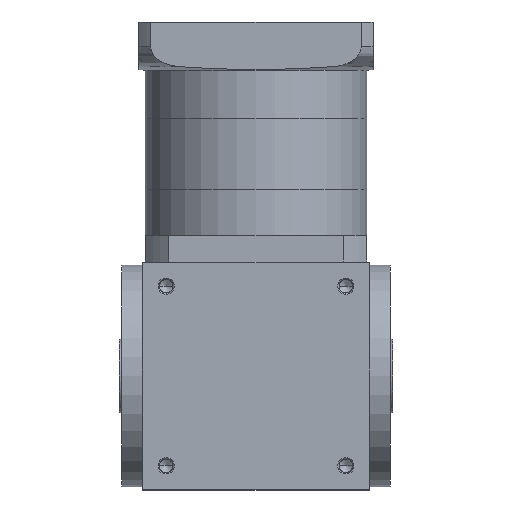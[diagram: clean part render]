
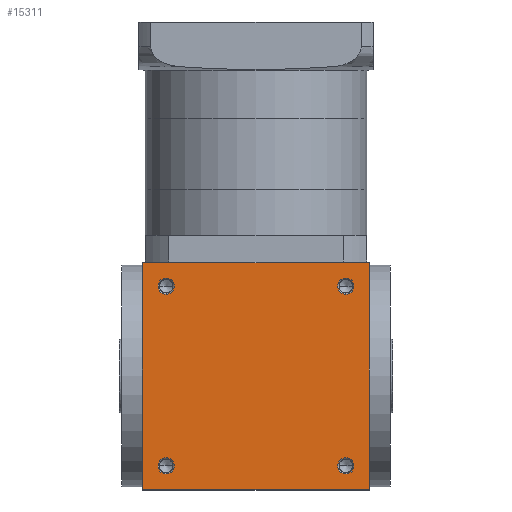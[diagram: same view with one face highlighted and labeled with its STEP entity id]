
A CAD part, front view. The second image highlights one B-rep face of the part: STEP entity #15311.
In plain terms, the highlighted planar face has unit normal (0, -1, 0).
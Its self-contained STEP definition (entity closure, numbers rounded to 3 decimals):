
#847 = DIRECTION ( 'NONE',  ( 0., -1., 0. ) ) ;
#880 = EDGE_CURVE ( 'NONE', #18208, #14510, #3067, .T. ) ;
#2165 = CARTESIAN_POINT ( 'NONE',  ( -67., -85., 152. ) ) ;
#3067 = CIRCLE ( 'NONE', #35133, 6.025 ) ;
#3091 = CARTESIAN_POINT ( 'NONE',  ( 67., -85., 18. ) ) ;
#3171 = DIRECTION ( 'NONE',  ( 0., 0., -1. ) ) ;
#3193 = DIRECTION ( 'NONE',  ( 0., -1., 0. ) ) ;
#3235 = ORIENTED_EDGE ( 'NONE', *, *, #26759, .F. ) ;
#3242 = CARTESIAN_POINT ( 'NONE',  ( 67., -85., 152. ) ) ;
#3458 = VERTEX_POINT ( 'NONE', #6726 ) ;
#3506 = ORIENTED_EDGE ( 'NONE', *, *, #5808, .F. ) ;
#3637 = LINE ( 'NONE', #40179, #4968 ) ;
#3758 = EDGE_CURVE ( 'NONE', #23532, #3458, #27032, .T. ) ;
#4968 = VECTOR ( 'NONE', #15306, 1000. ) ;
#5808 = EDGE_CURVE ( 'NONE', #13698, #49567, #13901, .T. ) ;
#5899 = CARTESIAN_POINT ( 'NONE',  ( -67., -85., 152. ) ) ;
#5962 = DIRECTION ( 'NONE',  ( 0., -1., 0. ) ) ;
#6029 = DIRECTION ( 'NONE',  ( 0., 0., -1. ) ) ;
#6430 = DIRECTION ( 'NONE',  ( 0., 0., -1. ) ) ;
#6726 = CARTESIAN_POINT ( 'NONE',  ( -67., -85., 11.975 ) ) ;
#7290 = VERTEX_POINT ( 'NONE', #35641 ) ;
#7311 = DIRECTION ( 'NONE',  ( 0., 0., -1. ) ) ;
#8284 = EDGE_CURVE ( 'NONE', #27612, #30658, #53440, .T. ) ;
#9605 = DIRECTION ( 'NONE',  ( 0., -1., 0. ) ) ;
#10006 = ORIENTED_EDGE ( 'NONE', *, *, #31190, .F. ) ;
#10548 = ORIENTED_EDGE ( 'NONE', *, *, #51335, .F. ) ;
#11248 = AXIS2_PLACEMENT_3D ( 'NONE', #27562, #27260, #26711 ) ;
#11908 = CARTESIAN_POINT ( 'NONE',  ( -67., -85., 158.025 ) ) ;
#12486 = VECTOR ( 'NONE', #26106, 1000. ) ;
#12692 = AXIS2_PLACEMENT_3D ( 'NONE', #2165, #31288, #6430 ) ;
#12769 = ORIENTED_EDGE ( 'NONE', *, *, #8284, .F. ) ;
#13097 = CARTESIAN_POINT ( 'NONE',  ( 67., -85., 145.975 ) ) ;
#13259 = VERTEX_POINT ( 'NONE', #24868 ) ;
#13698 = VERTEX_POINT ( 'NONE', #13097 ) ;
#13901 = CIRCLE ( 'NONE', #26928, 6.025 ) ;
#13982 = EDGE_LOOP ( 'NONE', ( #47474, #45131 ) ) ;
#14497 = AXIS2_PLACEMENT_3D ( 'NONE', #34539, #9605, #38710 ) ;
#14510 = VERTEX_POINT ( 'NONE', #48361 ) ;
#15306 = DIRECTION ( 'NONE',  ( -1., 0., 0. ) ) ;
#15311 = ADVANCED_FACE ( 'NONE', ( #40049, #17989, #50773, #29058, #19280 ), #26880, .F. ) ;
#16280 = CARTESIAN_POINT ( 'NONE',  ( -84.5, -85., 170. ) ) ;
#16788 = EDGE_LOOP ( 'NONE', ( #39780, #42634, #12769, #18040 ) ) ;
#17028 = AXIS2_PLACEMENT_3D ( 'NONE', #3091, #32177, #7311 ) ;
#17989 = FACE_BOUND ( 'NONE', #26885, .T. ) ;
#18035 = VECTOR ( 'NONE', #49191, 1000. ) ;
#18040 = ORIENTED_EDGE ( 'NONE', *, *, #37486, .F. ) ;
#18208 = VERTEX_POINT ( 'NONE', #11908 ) ;
#19280 = FACE_OUTER_BOUND ( 'NONE', #16788, .T. ) ;
#19326 = LINE ( 'NONE', #16280, #18035 ) ;
#19566 = CIRCLE ( 'NONE', #17028, 6.025 ) ;
#20336 = AXIS2_PLACEMENT_3D ( 'NONE', #22090, #50778, #26283 ) ;
#21706 = CARTESIAN_POINT ( 'NONE',  ( -67., -85., 24.025 ) ) ;
#22001 = AXIS2_PLACEMENT_3D ( 'NONE', #35454, #35262, #35088 ) ;
#22090 = CARTESIAN_POINT ( 'NONE',  ( -67., -85., 18. ) ) ;
#22813 = EDGE_CURVE ( 'NONE', #43400, #46358, #47628, .T. ) ;
#23532 = VERTEX_POINT ( 'NONE', #21706 ) ;
#23691 = ORIENTED_EDGE ( 'NONE', *, *, #3758, .F. ) ;
#24868 = CARTESIAN_POINT ( 'NONE',  ( -84.5, -85., 0.5 ) ) ;
#25863 = CARTESIAN_POINT ( 'NONE',  ( 67., -85., 18. ) ) ;
#26106 = DIRECTION ( 'NONE',  ( 0., 0., -1. ) ) ;
#26283 = DIRECTION ( 'NONE',  ( 0., 0., -1. ) ) ;
#26403 = CARTESIAN_POINT ( 'NONE',  ( 84.5, -85., 169.5 ) ) ;
#26711 = DIRECTION ( 'NONE',  ( 0., 0., 1. ) ) ;
#26759 = EDGE_CURVE ( 'NONE', #14510, #18208, #44197, .T. ) ;
#26880 = PLANE ( 'NONE',  #11248 ) ;
#26885 = EDGE_LOOP ( 'NONE', ( #3506, #10548 ) ) ;
#26928 = AXIS2_PLACEMENT_3D ( 'NONE', #3242, #3193, #3171 ) ;
#27032 = CIRCLE ( 'NONE', #22001, 6.025 ) ;
#27260 = DIRECTION ( 'NONE',  ( 0., 1., 0. ) ) ;
#27562 = CARTESIAN_POINT ( 'NONE',  ( -85., -85., 170. ) ) ;
#27612 = VERTEX_POINT ( 'NONE', #43955 ) ;
#29058 = FACE_BOUND ( 'NONE', #40316, .T. ) ;
#29386 = EDGE_LOOP ( 'NONE', ( #3235, #38763 ) ) ;
#30016 = DIRECTION ( 'NONE',  ( 0., 0., -1. ) ) ;
#30658 = VERTEX_POINT ( 'NONE', #26403 ) ;
#31190 = EDGE_CURVE ( 'NONE', #3458, #23532, #43864, .T. ) ;
#31288 = DIRECTION ( 'NONE',  ( 0., -1., 0. ) ) ;
#32177 = DIRECTION ( 'NONE',  ( 0., -1., 0. ) ) ;
#34539 = CARTESIAN_POINT ( 'NONE',  ( 67., -85., 152. ) ) ;
#34902 = EDGE_CURVE ( 'NONE', #46358, #43400, #19566, .T. ) ;
#35088 = DIRECTION ( 'NONE',  ( 0., 0., -1. ) ) ;
#35133 = AXIS2_PLACEMENT_3D ( 'NONE', #5899, #5962, #6029 ) ;
#35262 = DIRECTION ( 'NONE',  ( 0., -1., 0. ) ) ;
#35454 = CARTESIAN_POINT ( 'NONE',  ( -67., -85., 18. ) ) ;
#35641 = CARTESIAN_POINT ( 'NONE',  ( 84.5, -85., 0.5 ) ) ;
#37486 = EDGE_CURVE ( 'NONE', #13259, #27612, #19326, .T. ) ;
#38710 = DIRECTION ( 'NONE',  ( 0., 0., -1. ) ) ;
#38763 = ORIENTED_EDGE ( 'NONE', *, *, #880, .F. ) ;
#39780 = ORIENTED_EDGE ( 'NONE', *, *, #45669, .F. ) ;
#40049 = FACE_BOUND ( 'NONE', #29386, .T. ) ;
#40094 = DIRECTION ( 'NONE',  ( 1., 0., 0. ) ) ;
#40179 = CARTESIAN_POINT ( 'NONE',  ( -85., -85., 0.5 ) ) ;
#40234 = CARTESIAN_POINT ( 'NONE',  ( -85., -85., 169.5 ) ) ;
#40316 = EDGE_LOOP ( 'NONE', ( #10006, #23691 ) ) ;
#42634 = ORIENTED_EDGE ( 'NONE', *, *, #53028, .F. ) ;
#42798 = CARTESIAN_POINT ( 'NONE',  ( 67., -85., 11.975 ) ) ;
#43337 = CIRCLE ( 'NONE', #14497, 6.025 ) ;
#43400 = VERTEX_POINT ( 'NONE', #42798 ) ;
#43864 = CIRCLE ( 'NONE', #20336, 6.025 ) ;
#43955 = CARTESIAN_POINT ( 'NONE',  ( -84.5, -85., 169.5 ) ) ;
#44197 = CIRCLE ( 'NONE', #12692, 6.025 ) ;
#44231 = LINE ( 'NONE', #50595, #12486 ) ;
#45131 = ORIENTED_EDGE ( 'NONE', *, *, #34902, .F. ) ;
#45143 = CARTESIAN_POINT ( 'NONE',  ( 67., -85., 24.025 ) ) ;
#45669 = EDGE_CURVE ( 'NONE', #7290, #13259, #3637, .T. ) ;
#46358 = VERTEX_POINT ( 'NONE', #45143 ) ;
#47474 = ORIENTED_EDGE ( 'NONE', *, *, #22813, .F. ) ;
#47628 = CIRCLE ( 'NONE', #49174, 6.025 ) ;
#48361 = CARTESIAN_POINT ( 'NONE',  ( -67., -85., 145.975 ) ) ;
#49174 = AXIS2_PLACEMENT_3D ( 'NONE', #25863, #847, #30016 ) ;
#49191 = DIRECTION ( 'NONE',  ( 0., 0., 1. ) ) ;
#49464 = VECTOR ( 'NONE', #40094, 1000. ) ;
#49567 = VERTEX_POINT ( 'NONE', #51503 ) ;
#50595 = CARTESIAN_POINT ( 'NONE',  ( 84.5, -85., 170. ) ) ;
#50773 = FACE_BOUND ( 'NONE', #13982, .T. ) ;
#50778 = DIRECTION ( 'NONE',  ( 0., -1., 0. ) ) ;
#51335 = EDGE_CURVE ( 'NONE', #49567, #13698, #43337, .T. ) ;
#51503 = CARTESIAN_POINT ( 'NONE',  ( 67., -85., 158.025 ) ) ;
#53028 = EDGE_CURVE ( 'NONE', #30658, #7290, #44231, .T. ) ;
#53440 = LINE ( 'NONE', #40234, #49464 ) ;
